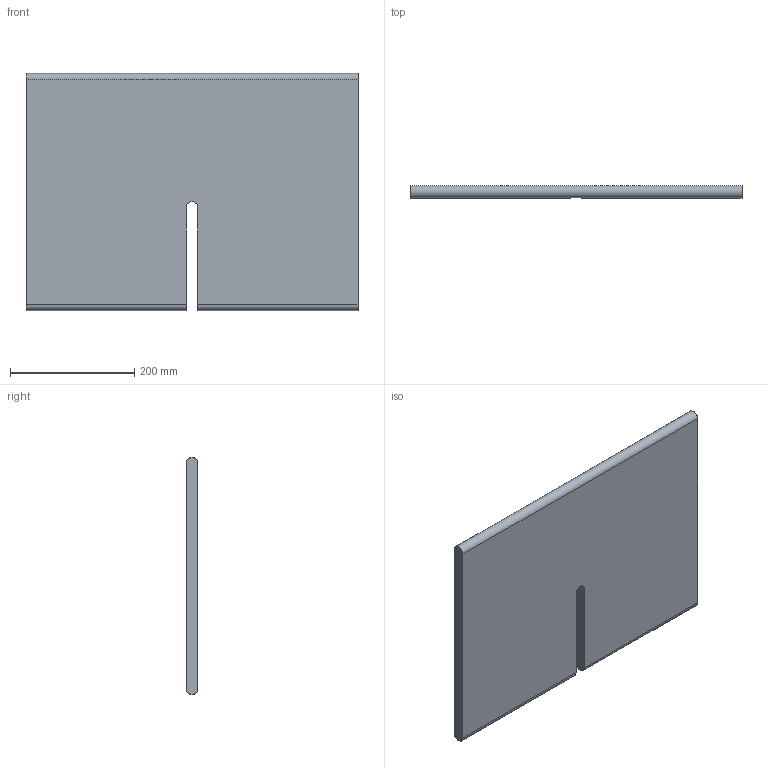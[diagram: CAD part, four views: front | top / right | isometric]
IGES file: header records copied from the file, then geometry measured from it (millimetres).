
Start section:  PTC IGES file: C:\Documents and Settings\Brad\Desktop\IGES\brace_mouth. igs
Global section: file name: C:\Documents and Settings\Brad\Desktop\IGES\brace_mouth.igs; native system: Brad by Parametric Technology Corporation; preprocessor: 2003250; author: Unknown; organization: PTC; date: 040521.142625; units: inch
Bounding box: 533.4 x 19.05 x 381 mm (x, y, z)
Volume: 3768015.3 mm3; surface area: 432411.2 mm2
Topology: 1 solids, 1 shells, 10 faces, 24 edges, 16 vertices
Faces by surface type: bspline 6, revolution 4
